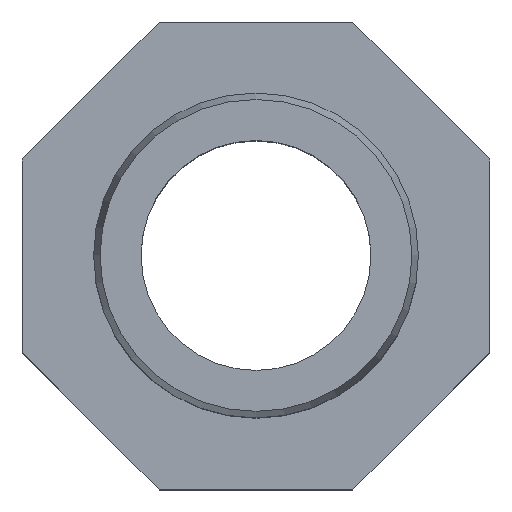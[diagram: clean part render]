
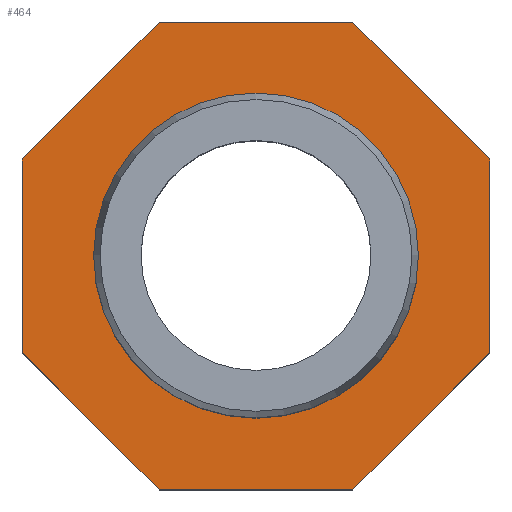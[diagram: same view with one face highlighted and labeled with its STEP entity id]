
A CAD part, top view. The second image highlights one B-rep face of the part: STEP entity #464.
In plain terms, the highlighted planar face has unit normal (0, 0, 1).
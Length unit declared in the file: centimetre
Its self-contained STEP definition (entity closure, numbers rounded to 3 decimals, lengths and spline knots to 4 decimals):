
#19=LINE('',#4325,#46);
#23=LINE('',#4333,#50);
#26=LINE('',#4339,#53);
#29=LINE('',#4345,#56);
#32=LINE('',#4351,#59);
#35=LINE('',#4357,#62);
#38=LINE('',#4363,#65);
#41=LINE('',#4368,#68);
#46=VECTOR('',#554,1.4912);
#50=VECTOR('',#560,1.4912);
#53=VECTOR('',#565,1.4912);
#56=VECTOR('',#570,1.4912);
#59=VECTOR('',#575,1.4912);
#62=VECTOR('',#580,1.4912);
#65=VECTOR('',#585,1.4912);
#68=VECTOR('',#590,1.4912);
#98=PLANE('',#500);
#108=FACE_BOUND('',#173,.T.);
#137=FACE_OUTER_BOUND('',#172,.T.);
#172=EDGE_LOOP('',(#382,#383,#384,#385,#386,#387,#388,#389));
#173=EDGE_LOOP('',(#390));
#198=CIRCLE('',#488,1.25);
#222=VERTEX_POINT('',#4317);
#224=VERTEX_POINT('',#4323);
#225=VERTEX_POINT('',#4324);
#228=VERTEX_POINT('',#4332);
#230=VERTEX_POINT('',#4338);
#232=VERTEX_POINT('',#4344);
#234=VERTEX_POINT('',#4350);
#236=VERTEX_POINT('',#4356);
#238=VERTEX_POINT('',#4362);
#268=EDGE_CURVE('',#222,#222,#198,.T.);
#270=EDGE_CURVE('',#224,#225,#19,.T.);
#274=EDGE_CURVE('',#228,#224,#23,.T.);
#277=EDGE_CURVE('',#230,#228,#26,.T.);
#280=EDGE_CURVE('',#232,#230,#29,.T.);
#283=EDGE_CURVE('',#234,#232,#32,.T.);
#286=EDGE_CURVE('',#236,#234,#35,.T.);
#289=EDGE_CURVE('',#238,#236,#38,.T.);
#292=EDGE_CURVE('',#225,#238,#41,.T.);
#382=ORIENTED_EDGE('',*,*,#292,.F.);
#383=ORIENTED_EDGE('',*,*,#270,.F.);
#384=ORIENTED_EDGE('',*,*,#274,.F.);
#385=ORIENTED_EDGE('',*,*,#277,.F.);
#386=ORIENTED_EDGE('',*,*,#280,.F.);
#387=ORIENTED_EDGE('',*,*,#283,.F.);
#388=ORIENTED_EDGE('',*,*,#286,.F.);
#389=ORIENTED_EDGE('',*,*,#289,.F.);
#390=ORIENTED_EDGE('',*,*,#268,.F.);
#464=ADVANCED_FACE('',(#137,#108),#98,.T.);
#488=AXIS2_PLACEMENT_3D('',#4318,#546,#547);
#500=AXIS2_PLACEMENT_3D('',#4371,#594,#595);
#546=DIRECTION('center_axis',(0.,0.,1.));
#547=DIRECTION('ref_axis',(1.,0.,0.));
#554=DIRECTION('',(1.,0.,0.));
#560=DIRECTION('',(0.707,0.707,0.));
#565=DIRECTION('',(0.,1.,0.));
#570=DIRECTION('',(-0.707,0.707,0.));
#575=DIRECTION('',(-1.,0.,0.));
#580=DIRECTION('',(-0.707,-0.707,0.));
#585=DIRECTION('',(0.,-1.,0.));
#590=DIRECTION('',(0.707,-0.707,0.));
#594=DIRECTION('center_axis',(0.,0.,1.));
#595=DIRECTION('ref_axis',(1.,0.,0.));
#4317=CARTESIAN_POINT('',(0.848,-0.003,0.6233));
#4318=CARTESIAN_POINT('Origin',(-0.402,-0.003,
0.6233));
#4323=CARTESIAN_POINT('',(-1.1476,1.797,0.6233));
#4324=CARTESIAN_POINT('',(0.3436,1.797,0.6233));
#4325=CARTESIAN_POINT('',(-1.1476,1.797,0.6233));
#4332=CARTESIAN_POINT('',(-2.202,0.7426,0.6233));
#4333=CARTESIAN_POINT('',(-2.202,0.7426,0.6233));
#4338=CARTESIAN_POINT('',(-2.202,-0.7486,0.6233));
#4339=CARTESIAN_POINT('',(-2.202,-0.7486,0.6233));
#4344=CARTESIAN_POINT('',(-1.1476,-1.803,0.6233));
#4345=CARTESIAN_POINT('',(-1.1476,-1.803,0.6233));
#4350=CARTESIAN_POINT('',(0.3436,-1.803,0.6233));
#4351=CARTESIAN_POINT('',(0.3436,-1.803,0.6233));
#4356=CARTESIAN_POINT('',(1.398,-0.7486,0.6233));
#4357=CARTESIAN_POINT('',(1.398,-0.7486,0.6233));
#4362=CARTESIAN_POINT('',(1.398,0.7426,0.6233));
#4363=CARTESIAN_POINT('',(1.398,0.7426,0.6233));
#4368=CARTESIAN_POINT('',(0.3436,1.797,0.6233));
#4371=CARTESIAN_POINT('Origin',(0.848,-0.003,
0.6233));
